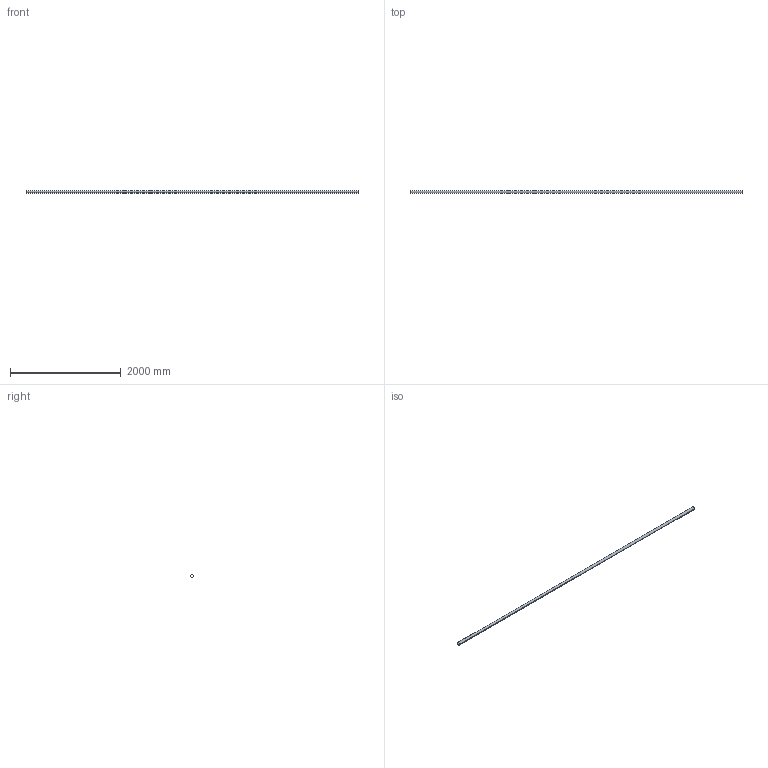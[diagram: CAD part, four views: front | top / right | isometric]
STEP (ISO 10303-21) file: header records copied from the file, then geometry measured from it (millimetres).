
FILE_DESCRIPTION (( 'STEP AP214' ), '1' );
FILE_NAME ('P540000.STEP', '2025-08-17T14:41:18', ( '' ), ( '' ), 'SwSTEP 2.0', 'SolidWorks 2020', '' );
FILE_SCHEMA (( 'AUTOMOTIVE_DESIGN' ));
Length unit declared in the file: millimetre
Products named in the file (1): P540000
Bounding box: 6000 x 54 x 54 mm (x, y, z)
Volume: 1484402.5 mm3; surface area: 1979698.2 mm2
Topology: 1 solids, 1 shells, 6 faces, 12 edges, 8 vertices
Faces by surface type: cylinder 4, plane 2
Entity records: 268 total; most frequent: DIRECTION 34, CARTESIAN_POINT 27, ORIENTED_EDGE 24, AXIS2_PLACEMENT_3D 15, EDGE_CURVE 12, UNCERTAINTY_MEASURE_WITH_UNIT 9, FILL_AREA_STYLE 8, CIRCLE 8
